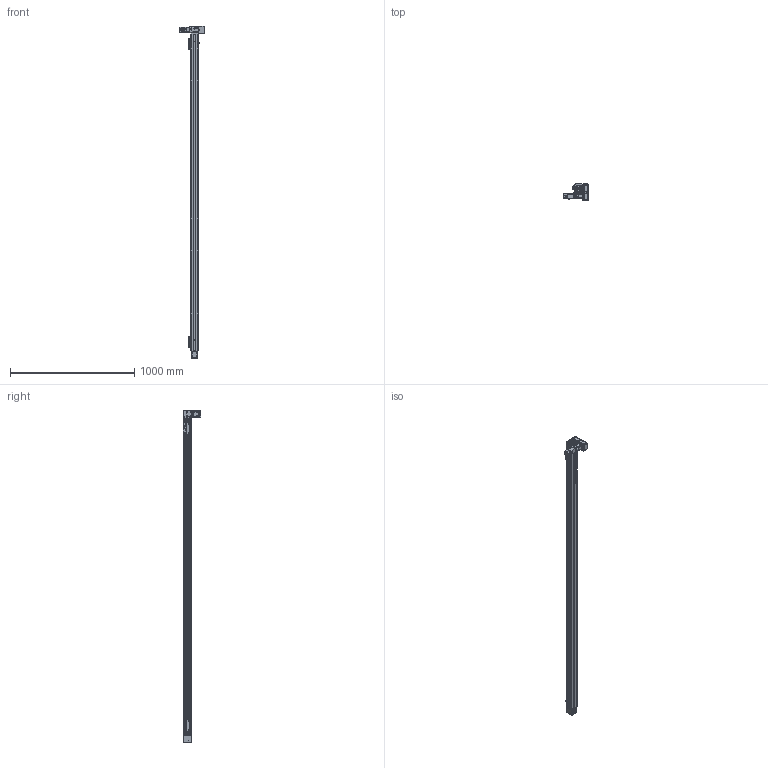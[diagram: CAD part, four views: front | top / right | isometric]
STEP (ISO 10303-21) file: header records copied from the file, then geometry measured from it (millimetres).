
FILE_DESCRIPTION(/* description */ (''),/* implementation_level */ '2;1');
FILE_NAME(/* name */ '\\192.168.0.160\disk1\HAN SHIN Master\B-설계부문\C-표준\B-2024년\BC02-표준도면\+로봇 개선표준도면\홈페이지 표준 도면\홈페이지 최종 작업 폴더\3D\HB\HB55\HB55-DR1G-N-2400-L.stp',/* time_stamp */ '2025-06-03T13:17:15+09:00',/* author */ ('user'),/* organization */ (''),/* preprocessor_version */ 'ST-DEVELOPER v18.1',/* originating_system */ 'Autodesk Inventor 2022',/* authorisation */ '');
FILE_SCHEMA (('AUTOMOTIVE_DESIGN { 1 0 10303 214 3 1 1 }'));
Products named in the file (40): HSB55-DR1G-N-0500-L; HSB55 BASE; HSB55 TABLE; UPCOVER; HSB55 HOUSING (Connecting); HSB55 FRONT HOUSIONG; HSB55 REAR SHAFT-1; HSB55 REAR SHAFT; HSB55 DOWN CLAMP; M4-25(렌치볼트); HSB55 HOUSING-R1; HSB55 TENSION PLATE; ISO 4032 - M4; HSB55 UP CLAMP; M4-12(렌치볼트); HR45 STOPPER; HSB55 ACRYL COVER-R1; HSB55 ACRYL COVER; HSB160 BEARING OVER; HSB55 END COVER; HSB160 SHAFT-1; EC-6202ZZ; EC-6202ZZ Inner ring; EC-6202ZZ Outer ring; EC-6202ZZ St; EC-6202ZZ Ball; EC-6202ZZ B1; HR45 SENSOR DOG; hsr_ftht_A-M6F_grease_nipple_joint; NIPPLE CAP(신규); HR45 SENSOR RAIL; EE_SX674A; PGX44-H-1_3; hg-kr13_; MOTOR PLATE-100W(MITSUBISHI); HSB55 D BELT COVER; HR65-BELT COVER-COVER; HR65-BELT COVER-COVER3; HSB55 D MOTOR PLATE; HR65-BELT COVER-COVER2
Assembly tree (63 placements, depth 3):
  HSB55-DR1G-N-0500-L
    HSB55 BASE
    HSB55 TABLE
    UPCOVER
    HSB55 FRONT HOUSIONG  x2
    HSB55 HOUSING (Connecting)
    HSB55 REAR SHAFT-1
    #134691  x2
    HSB55 REAR SHAFT
    HSB55 DOWN CLAMP  x2
    HSB55 UP CLAMP  x2
    M4-25(렌치볼트)
    ISO 4032 - M4  x2
    HSB55 HOUSING-R1
    HSB55 TENSION PLATE  x2
    M4-12(렌치볼트)
    HR45 STOPPER  x2
    HSB55 ACRYL COVER  x4
    HSB55 ACRYL COVER-R1
    HSB160 BEARING OVER
    HSB55 END COVER
    HSB160 SHAFT-1
    EC-6202ZZ  x2
      EC-6202ZZ Inner ring
      EC-6202ZZ Outer ring
      EC-6202ZZ B1
      EC-6202ZZ St
      EC-6202ZZ Ball
    HR45 SENSOR DOG
    EE_SX674A  x3
    HR45 SENSOR RAIL  x2
    hsr_ftht_A-M6F_grease_nipple_joint
    NIPPLE CAP(신규)
    PGX44-H-1_3
    hg-kr13_
    MOTOR PLATE-100W(MITSUBISHI)
    HSB55 D BELT COVER
    HR65-BELT COVER-COVER
    HR65-BELT COVER-COVER3
    HSB55 D MOTOR PLATE
    HR65-BELT COVER-COVER2  x2
Bounding box: 201.4 x 142.7 x 2670 mm (x, y, z)
Volume: 3953425.5 mm3; surface area: 1646740.5 mm2
Topology: 89 solids, 89 shells, 5309 faces, 14619 edges, 9558 vertices
Faces by surface type: plane 3673, cylinder 1267, cone 290, torus 35, sphere 22, bspline 22
Full cylindrical faces by diameter (mm): 1 x2, 2 x3, 2.013 x4, 2.459 x96, 2.5 x5, 3 x3, 3.242 x82, 3.3 x9, 3.4 x22, 3.5 x75, 4 x12, 4.134 x26, 4.2 x4, 4.5 x45, 4.917 x2, 5 x8, 5.5 x1, 5.6 x3, 5.9 x2, 6 x46, 6.5 x4, 7 x6, 7.5 x4, 8 x21, 8.2 x1, 9 x2, 9.5 x2, 10 x1, 11.5 x2, 12 x6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
Entity records: 134644 total; most frequent: CARTESIAN_POINT 27351, ORIENTED_EDGE 22086, DIRECTION 21696, EDGE_CURVE 11043, LINE 7704, VECTOR 7704, VERTEX_POINT 7258, AXIS2_PLACEMENT_3D 6996
